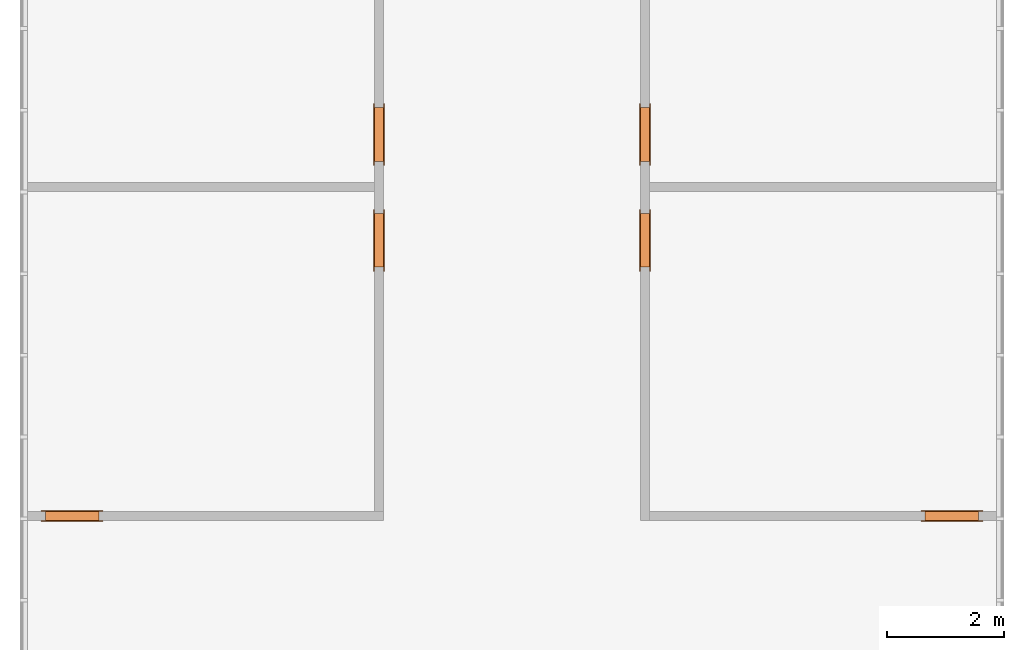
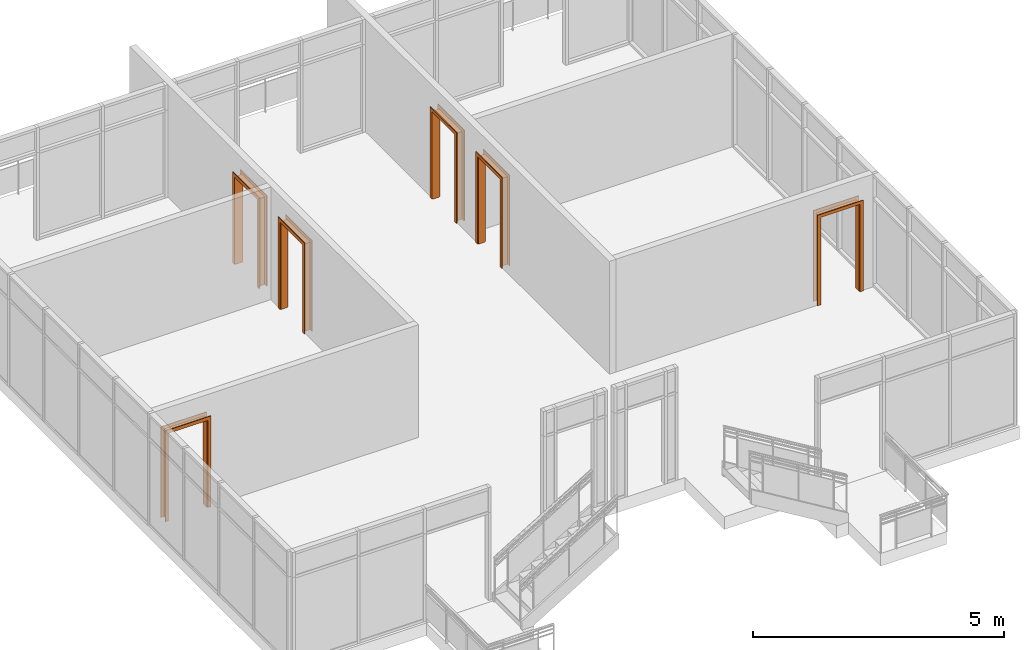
# One storey, part 11 of 11: 6 proxies.
"""IFC2X3 building model written with IfcOpenShell, lengths in feet."""

from ifc_helpers import new_model, entity, si_unit, converted_unit, derived_unit, direction, frame, origin, place, context, subcontext, project, spatial, faceted_brep, source, transform, mapped, material, type_object, type_shapes, element, save


model = new_model("IFC2X3")

# Units and contexts
model_context = context("Model", 3, precision=0.0001, world=origin(), true_north=direction((6.12303176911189e-17, 1.0)))
body_context = subcontext(model_context, "Body", "Model", "MODEL_VIEW")
ifc_project = project(units=[converted_unit("LENGTHUNIT", "FOOT", entity("IfcRatioMeasure", 0.3048), si_unit("LENGTHUNIT", "METRE"), dimensions=[1, 0, 0, 0, 0, 0, 0]), converted_unit("AREAUNIT", "SQUARE FOOT", entity("IfcRatioMeasure", 0.09290304), si_unit("AREAUNIT", "SQUARE_METRE"), dimensions=[2, 0, 0, 0, 0, 0, 0]), converted_unit("VOLUMEUNIT", "CUBIC FOOT", entity("IfcRatioMeasure", 0.028316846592), si_unit("VOLUMEUNIT", "CUBIC_METRE"), dimensions=[3, 0, 0, 0, 0, 0, 0]), converted_unit("PLANEANGLEUNIT", "DEGREE", entity("IfcRatioMeasure", 0.0174532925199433), si_unit("PLANEANGLEUNIT", "RADIAN"), dimensions=[0, 0, 0, 0, 0, 0, 0]), si_unit("MASSUNIT", "GRAM", prefix="KILO"), derived_unit("MASSDENSITYUNIT", [(si_unit("MASSUNIT", "GRAM", prefix="KILO"), 1), (si_unit("LENGTHUNIT", "METRE"), -3)]), si_unit("TIMEUNIT", "SECOND"), si_unit("FREQUENCYUNIT", "HERTZ"), si_unit("THERMODYNAMICTEMPERATUREUNIT", "DEGREE_CELSIUS"), derived_unit("THERMALTRANSMITTANCEUNIT", [(si_unit("MASSUNIT", "GRAM", prefix="KILO"), 1), (si_unit("THERMODYNAMICTEMPERATUREUNIT", "KELVIN"), -1), (si_unit("TIMEUNIT", "SECOND"), -3)]), derived_unit("VOLUMETRICFLOWRATEUNIT", [(si_unit("LENGTHUNIT", "METRE"), 3), (si_unit("TIMEUNIT", "SECOND"), -1)]), si_unit("ELECTRICCURRENTUNIT", "AMPERE"), si_unit("ELECTRICVOLTAGEUNIT", "VOLT"), si_unit("POWERUNIT", "WATT"), si_unit("FORCEUNIT", "NEWTON"), si_unit("ILLUMINANCEUNIT", "LUX"), si_unit("LUMINOUSFLUXUNIT", "LUMEN"), si_unit("LUMINOUSINTENSITYUNIT", "CANDELA"), derived_unit("USERDEFINED", [(si_unit("MASSUNIT", "GRAM", prefix="KILO"), -1), (si_unit("LENGTHUNIT", "METRE"), -2), (si_unit("TIMEUNIT", "SECOND"), 3), (si_unit("LUMINOUSFLUXUNIT", "LUMEN"), 1)]), derived_unit("LINEARVELOCITYUNIT", [(si_unit("LENGTHUNIT", "METRE"), 1), (si_unit("TIMEUNIT", "SECOND"), -1)]), si_unit("PRESSUREUNIT", "PASCAL"), derived_unit("USERDEFINED", [(si_unit("LENGTHUNIT", "METRE"), -2), (si_unit("MASSUNIT", "GRAM", prefix="KILO"), 1), (si_unit("TIMEUNIT", "SECOND"), -2)])], contexts=[model_context])

# Site, building, storey
site_placement = place(None, origin())
site = spatial("IfcSite", under=ifc_project, at=site_placement, Name="Default", CompositionType="ELEMENT")
building_placement = place(site_placement, origin())
building = spatial("IfcBuilding", under=site, at=building_placement, CompositionType="ELEMENT")
storey_placement = place(building_placement, frame((0.0, 0.0, 10.0)))
storey = spatial("IfcBuildingStorey", under=building, at=storey_placement, Name="Level 2", CompositionType="ELEMENT", Elevation=9.99999999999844)

# Proxies
ifc_material = material(Name="Door - Frame")
building_element_proxy_type = type_object("IfcBuildingElementProxyType", Name="36\" x 84\"", PredefinedType="NOTDEFINED", material=ifc_material)
shared_shape = source(origin(), body_context, "Body", "Brep", [
    faceted_brep([(-1.50603233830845, -0.312500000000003, 0.0), (-1.50603233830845, -0.312500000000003, 6.97916666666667), (1.45230099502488, -0.312500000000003, 6.97916666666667), (1.45230099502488, -0.312500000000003, 0.0), (1.70230099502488, -0.312500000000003, 0.0), (1.70230099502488, -0.312500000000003, 7.22916666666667), (-1.75603233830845, -0.312500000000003, 7.22916666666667), (-1.75603233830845, -0.312500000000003, 0.0), (-1.50603233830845, -0.25, 0.0), (-1.75603233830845, -0.25, 0.0), (-1.75603233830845, -0.25, 7.22916666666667), (1.70230099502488, -0.25, 7.22916666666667), (1.70230099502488, -0.25, 0.0), (1.45230099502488, -0.25, 0.0), (1.45230099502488, -0.25, 6.97916666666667), (-1.50603233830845, -0.25, 6.97916666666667)], [[[0, 1, 2, 3, 4, 5, 6, 7]], [[8, 9, 10, 11, 12, 13, 14, 15]], [[1, 0, 8, 15]], [[2, 1, 15, 14]], [[3, 2, 14, 13]], [[4, 3, 13, 12]], [[5, 4, 12, 11]], [[6, 5, 11, 10]], [[7, 6, 10, 9]], [[0, 7, 9, 8]]]),
    faceted_brep([(1.70230099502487, 0.312500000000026, 0.0), (1.45230099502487, 0.312500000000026, 0.0), (1.45230099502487, 0.312500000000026, 6.97916666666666), (-1.50603233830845, 0.312500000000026, 6.97916666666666), (-1.50603233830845, 0.312500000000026, 0.0), (-1.75603233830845, 0.312500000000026, 0.0), (-1.75603233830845, 0.312500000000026, 7.25), (1.70230099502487, 0.312500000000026, 7.25), (1.70230099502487, 0.25, 0.0), (1.70230099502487, 0.25, 7.25), (-1.75603233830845, 0.25, 7.25), (-1.75603233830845, 0.25, 0.0), (-1.50603233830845, 0.25, 0.0), (-1.50603233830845, 0.25, 6.97916666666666), (1.45230099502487, 0.25, 6.97916666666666), (1.45230099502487, 0.25, 0.0)], [[[0, 1, 2, 3, 4, 5, 6, 7]], [[8, 9, 10, 11, 12, 13, 14, 15]], [[1, 0, 8, 15]], [[2, 1, 15, 14]], [[3, 2, 14, 13]], [[4, 3, 13, 12]], [[5, 4, 12, 11]], [[6, 5, 11, 10]], [[7, 6, 10, 9]], [[0, 7, 9, 8]]]),
    faceted_brep([(1.41063432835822, 0.25, 0.0), (1.47313432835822, 0.25, 0.0), (1.47313432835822, -0.25, 0.0), (1.41063432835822, -0.25, 0.0), (1.41063432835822, 0.25, 6.9375), (1.47313432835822, 0.25, 7.0), (1.47313432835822, -0.25, 7.0), (1.41063432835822, -0.25, 6.9375), (-1.46436567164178, 0.25, 6.9375), (-1.52686567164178, 0.25, 7.0), (-1.52686567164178, -0.25, 7.0), (-1.46436567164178, -0.25, 6.9375), (-1.46436567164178, 0.25, 0.0), (-1.46436567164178, -0.25, 0.0), (-1.52686567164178, -0.25, 0.0), (-1.52686567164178, 0.25, 0.0)], [[[0, 1, 2, 3]], [[1, 0, 4, 5]], [[2, 1, 5, 6]], [[3, 2, 6, 7]], [[0, 3, 7, 4]], [[5, 4, 8, 9]], [[6, 5, 9, 10]], [[7, 6, 10, 11]], [[4, 7, 11, 8]], [[12, 13, 14, 15]], [[9, 8, 12, 15]], [[10, 9, 15, 14]], [[11, 10, 14, 13]], [[8, 11, 13, 12]]]),
])
type_shapes(building_element_proxy_type, [shared_shape])
for number, where, z_axis, x_axis in (
    (1, (-41.4463748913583, 32.8773910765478, 0.0), (0.0, 0.0, 1.0), (0.0, 1.0, 0.0)),
    (2, (-41.4463748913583, 26.9468355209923, 0.0), (0.0, 0.0, 1.0), (0.0, 1.0, 0.0)),
    (3, (-26.5372839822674, 26.9468355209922, 0.0), (0.0, 0.0, 1.0), (0.0, 1.0, 0.0)),
    (4, (-26.5372839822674, 32.8236597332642, 0.0), (0.0, 0.0, 1.0), (0.0, -1.0, 0.0)),
):
    element("IfcBuildingElementProxy", number, at=place(storey_placement, frame(where, z_axis=z_axis, x_axis=x_axis)), inside=storey, type_object=building_element_proxy_type, material=ifc_material, Name="Passage Opening-Cased:36\" x 84\"", ObjectType="36\" x 84\"", context=body_context, shape_type="MappedRepresentation", body=[
        mapped(shared_shape, transform((0.0, 0.0, 0.0), scale=1.0)),
    ])
proxy_1_placement = place(storey_placement, frame((-9.33996376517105, 11.4894142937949, 0.0)))
element("IfcBuildingElementProxy", 5, at=proxy_1_placement, inside=storey, type_object=building_element_proxy_type, material=ifc_material, Name="Passage Opening-Cased:36\" x 84\"", ObjectType="36\" x 84\"", context=body_context, shape_type="MappedRepresentation", body=[
    mapped(shared_shape, transform((0.0, 0.0, 0.0), scale=1.0)),
])
proxy_2_placement = place(storey_placement, frame((-58.6436951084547, 11.489414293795, 0.0), z_axis=(0.0, 0.0, 1.0), x_axis=(-1.0, 0.0, 0.0)))
element("IfcBuildingElementProxy", 6, at=proxy_2_placement, inside=storey, type_object=building_element_proxy_type, material=ifc_material, Name="Passage Opening-Cased:36\" x 84\"", ObjectType="36\" x 84\"", context=body_context, shape_type="MappedRepresentation", body=[
    mapped(shared_shape, transform((0.0, 0.0, 0.0), scale=1.0)),
])

save(model, "model.ifc")
